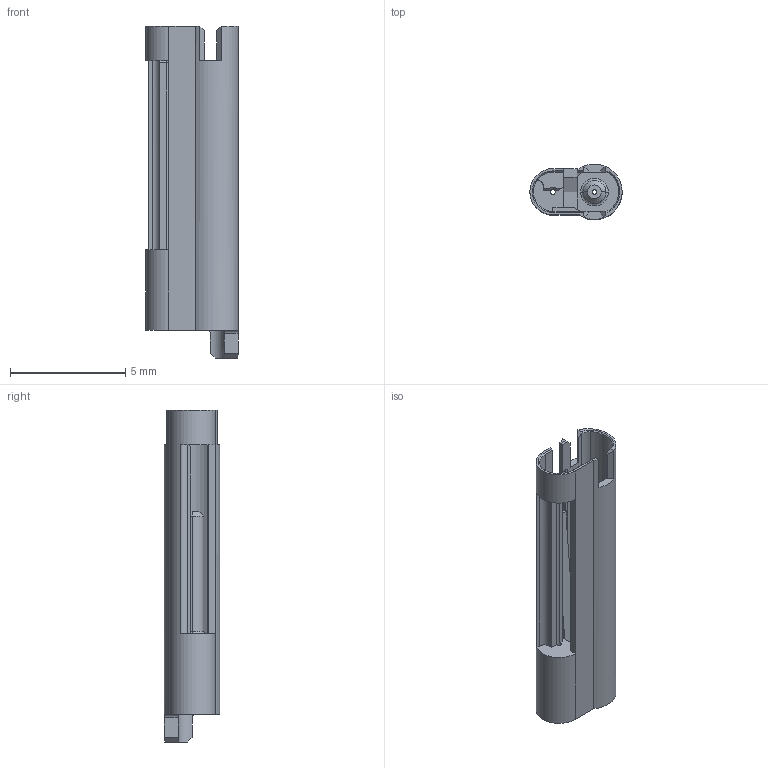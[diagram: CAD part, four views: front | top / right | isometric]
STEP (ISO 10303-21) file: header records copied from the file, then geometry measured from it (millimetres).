
FILE_DESCRIPTION (( 'STEP AP214' ), '1' );
FILE_NAME ('TRL-0044-CTR-2L-A.STEP', '2021-06-27T15:18:43', ( '' ), ( '' ), 'SwSTEP 2.0', 'SolidWorks 2016', '' );
FILE_SCHEMA (( 'AUTOMOTIVE_DESIGN' ));
Length unit declared in the file: millimetre
Products named in the file (1): TRL-0044-CTR-2L-A
Bounding box: 4 x 2.4 x 14.4 mm (x, y, z)
Volume: 52.1 mm3; surface area: 259.8 mm2
Topology: 1 solids, 1 shells, 100 faces, 269 edges, 170 vertices
Faces by surface type: plane 60, cylinder 23, cone 12, bspline 3, torus 2
Entity records: 3527 total; most frequent: CARTESIAN_POINT 1001, ORIENTED_EDGE 538, DIRECTION 506, EDGE_CURVE 269, LINE 176, VECTOR 176, VERTEX_POINT 170, AXIS2_PLACEMENT_3D 165
